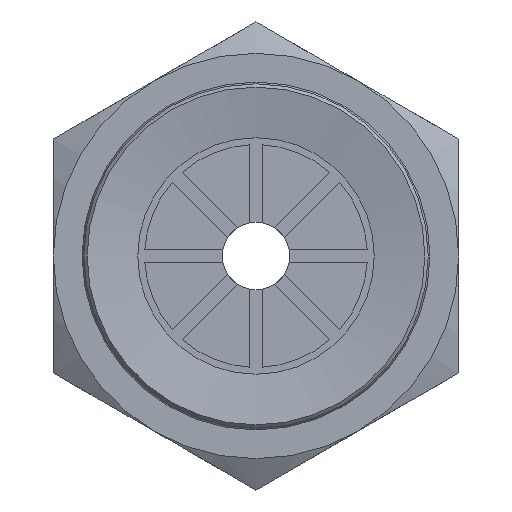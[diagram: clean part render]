
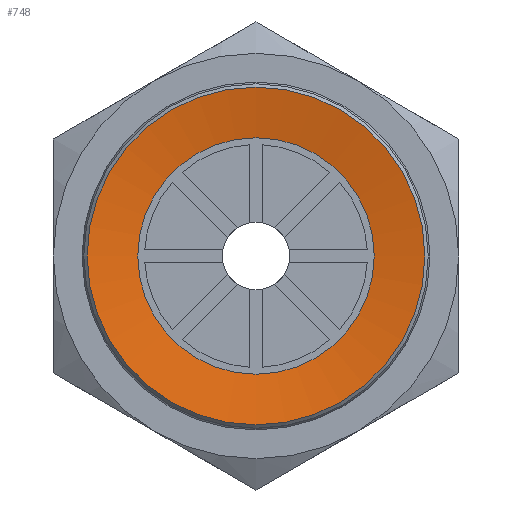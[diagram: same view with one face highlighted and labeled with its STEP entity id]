
A CAD part, front view. The second image highlights one B-rep face of the part: STEP entity #748.
In plain terms, the highlighted conical face has half-angle 80 degrees and reference radius 5 mm.
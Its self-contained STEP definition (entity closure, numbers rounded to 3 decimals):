
#748=ADVANCED_FACE('',(#1173,#1174),#1175,.F.);
#1173=FACE_BOUND('',#1613,.T.);
#1174=FACE_OUTER_BOUND('',#1614,.T.);
#1175=CONICAL_SURFACE('',#1615,5.0,1.396);
#1613=EDGE_LOOP('',(#2763));
#1614=EDGE_LOOP('',(#2764));
#1615=AXIS2_PLACEMENT_3D('',#2765,#2766,#2767);
#2763=ORIENTED_EDGE('',*,*,#3156,.T.);
#2764=ORIENTED_EDGE('',*,*,#3137,.F.);
#2765=CARTESIAN_POINT('',(0.0,0.,0.));
#2766=DIRECTION('',(0.0,0.,-1.0));
#2767=DIRECTION('',(0.0,1.0,0.));
#3137=EDGE_CURVE('',#3684,#3684,#3685,.T.);
#3156=EDGE_CURVE('',#3715,#3715,#3716,.T.);
#3684=VERTEX_POINT('',#4540);
#3685=CIRCLE('',#4541,5.0);
#3715=VERTEX_POINT('',#4578);
#3716=CIRCLE('',#4579,3.5);
#4540=CARTESIAN_POINT('',(0.0,-5.0,0.));
#4541=AXIS2_PLACEMENT_3D('',#5099,#5100,#5101);
#4578=CARTESIAN_POINT('',(0.0,-3.5,0.264));
#4579=AXIS2_PLACEMENT_3D('',#5142,#5143,#5144);
#5099=CARTESIAN_POINT('',(0.0,0.,0.));
#5100=DIRECTION('',(0.0,0.,1.0));
#5101=DIRECTION('',(0.0,-1.0,0.));
#5142=CARTESIAN_POINT('',(0.0,0.,0.264));
#5143=DIRECTION('',(0.0,0.,1.0));
#5144=DIRECTION('',(0.0,-1.0,0.));
